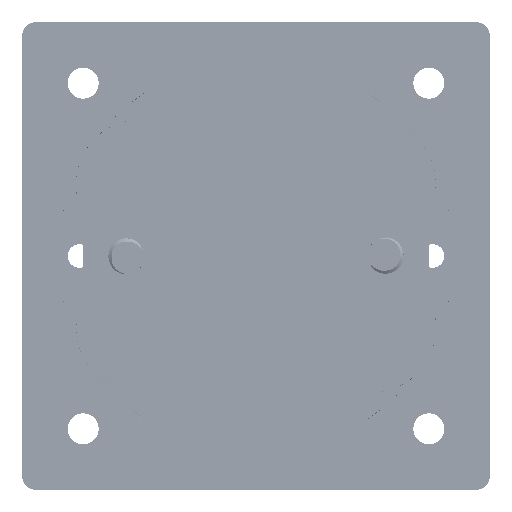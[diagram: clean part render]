
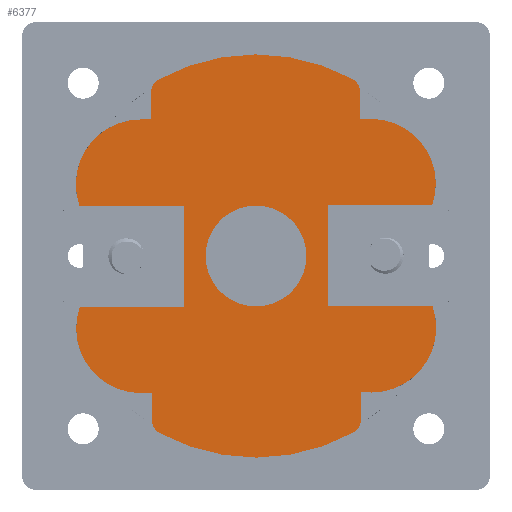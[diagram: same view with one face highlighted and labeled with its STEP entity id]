
A CAD part, front view. The second image highlights one B-rep face of the part: STEP entity #6377.
In plain terms, the highlighted planar face has unit normal (0, -1, 0).
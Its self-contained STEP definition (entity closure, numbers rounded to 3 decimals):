
#976=LINE('',#73582,#3403);
#981=LINE('',#73593,#3408);
#983=LINE('',#73597,#3410);
#987=LINE('',#73609,#3414);
#992=LINE('',#73620,#3419);
#994=LINE('',#73624,#3421);
#999=LINE('',#73659,#3426);
#1039=LINE('',#73743,#3466);
#1081=LINE('',#73843,#3508);
#1083=LINE('',#73857,#3510);
#1089=LINE('',#73876,#3516);
#1128=LINE('',#73954,#3555);
#1170=LINE('',#74054,#3597);
#1173=LINE('',#74060,#3600);
#3403=VECTOR('',#37019,1.);
#3408=VECTOR('',#37026,1.);
#3410=VECTOR('',#37030,1.);
#3414=VECTOR('',#37042,1.);
#3419=VECTOR('',#37049,1.);
#3421=VECTOR('',#37053,1.);
#3426=VECTOR('',#37066,1.);
#3466=VECTOR('',#37114,1.);
#3508=VECTOR('',#37180,1.);
#3510=VECTOR('',#37184,1.);
#3516=VECTOR('',#37204,1.);
#3555=VECTOR('',#37245,1.);
#3597=VECTOR('',#37311,1.);
#3600=VECTOR('',#37316,1.);
#5709=FACE_BOUND('',#10916,.T.);
#5710=FACE_BOUND('',#10917,.T.);
#6377=ADVANCED_FACE('',(#5709,#5710),#8111,.F.);
#8111=PLANE('',#33824);
#10916=EDGE_LOOP('',(#15161,#15162,#15163,#15164,#15165,#15166,#15167,#15168,
#15169,#15170,#15171,#15172,#15173,#15174,#15175,#15176,#15177,#15178,#15179,
#15180,#15181,#15182,#15183,#15184,#15185));
#10917=EDGE_LOOP('',(#15186));
#12907=CIRCLE('',#33765,7.);
#12913=CIRCLE('',#33781,8.96);
#12916=CIRCLE('',#33786,2.);
#12918=CIRCLE('',#33789,28.);
#12921=CIRCLE('',#33793,2.);
#12922=CIRCLE('',#33797,9.);
#12924=CIRCLE('',#33800,9.);
#12928=CIRCLE('',#33807,2.);
#12930=CIRCLE('',#33810,28.);
#12933=CIRCLE('',#33814,2.);
#12934=CIRCLE('',#33818,9.);
#12936=CIRCLE('',#33821,9.);
#15161=ORIENTED_EDGE('',*,*,#27935,.F.);
#15162=ORIENTED_EDGE('',*,*,#28056,.T.);
#15163=ORIENTED_EDGE('',*,*,#28055,.T.);
#15164=ORIENTED_EDGE('',*,*,#28051,.T.);
#15165=ORIENTED_EDGE('',*,*,#28012,.T.);
#15166=ORIENTED_EDGE('',*,*,#28008,.T.);
#15167=ORIENTED_EDGE('',*,*,#28005,.T.);
#15168=ORIENTED_EDGE('',*,*,#28001,.T.);
#15169=ORIENTED_EDGE('',*,*,#27962,.T.);
#15170=ORIENTED_EDGE('',*,*,#27959,.T.);
#15171=ORIENTED_EDGE('',*,*,#28161,.T.);
#15172=ORIENTED_EDGE('',*,*,#27946,.F.);
#15173=ORIENTED_EDGE('',*,*,#27941,.F.);
#15174=ORIENTED_EDGE('',*,*,#27948,.F.);
#15175=ORIENTED_EDGE('',*,*,#28158,.T.);
#15176=ORIENTED_EDGE('',*,*,#28157,.T.);
#15177=ORIENTED_EDGE('',*,*,#28154,.T.);
#15178=ORIENTED_EDGE('',*,*,#28115,.T.);
#15179=ORIENTED_EDGE('',*,*,#28111,.T.);
#15180=ORIENTED_EDGE('',*,*,#28108,.T.);
#15181=ORIENTED_EDGE('',*,*,#28104,.T.);
#15182=ORIENTED_EDGE('',*,*,#28065,.T.);
#15183=ORIENTED_EDGE('',*,*,#28059,.T.);
#15184=ORIENTED_EDGE('',*,*,#27933,.F.);
#15185=ORIENTED_EDGE('',*,*,#27928,.F.);
#15186=ORIENTED_EDGE('',*,*,#27927,.F.);
#24463=VERTEX_POINT('',#73580);
#24464=VERTEX_POINT('',#73583);
#24465=VERTEX_POINT('',#73584);
#24469=VERTEX_POINT('',#73594);
#24470=VERTEX_POINT('',#73598);
#24474=VERTEX_POINT('',#73610);
#24475=VERTEX_POINT('',#73611);
#24479=VERTEX_POINT('',#73621);
#24480=VERTEX_POINT('',#73625);
#24484=VERTEX_POINT('',#73640);
#24489=VERTEX_POINT('',#73658);
#24490=VERTEX_POINT('',#73662);
#24492=VERTEX_POINT('',#73668);
#24530=VERTEX_POINT('',#73746);
#24533=VERTEX_POINT('',#73754);
#24535=VERTEX_POINT('',#73760);
#24538=VERTEX_POINT('',#73768);
#24576=VERTEX_POINT('',#73849);
#24580=VERTEX_POINT('',#73865);
#24583=VERTEX_POINT('',#73873);
#24585=VERTEX_POINT('',#73879);
#24623=VERTEX_POINT('',#73957);
#24626=VERTEX_POINT('',#73965);
#24628=VERTEX_POINT('',#73971);
#24631=VERTEX_POINT('',#73979);
#24669=VERTEX_POINT('',#74057);
#27927=EDGE_CURVE('',#24463,#24463,#12907,.T.);
#27928=EDGE_CURVE('',#24464,#24465,#976,.T.);
#27933=EDGE_CURVE('',#24465,#24469,#981,.T.);
#27935=EDGE_CURVE('',#24470,#24464,#983,.T.);
#27941=EDGE_CURVE('',#24474,#24475,#987,.T.);
#27946=EDGE_CURVE('',#24475,#24479,#992,.T.);
#27948=EDGE_CURVE('',#24480,#24474,#994,.T.);
#27959=EDGE_CURVE('',#24484,#24489,#999,.T.);
#27962=EDGE_CURVE('',#24490,#24484,#12913,.T.);
#28001=EDGE_CURVE('',#24492,#24490,#1039,.T.);
#28005=EDGE_CURVE('',#24530,#24492,#12916,.T.);
#28008=EDGE_CURVE('',#24533,#24530,#12918,.T.);
#28012=EDGE_CURVE('',#24535,#24533,#12921,.T.);
#28051=EDGE_CURVE('',#24538,#24535,#1081,.T.);
#28055=EDGE_CURVE('',#24576,#24538,#1083,.T.);
#28056=EDGE_CURVE('',#24470,#24576,#12922,.T.);
#28059=EDGE_CURVE('',#24580,#24469,#12924,.T.);
#28065=EDGE_CURVE('',#24583,#24580,#1089,.T.);
#28104=EDGE_CURVE('',#24585,#24583,#1128,.T.);
#28108=EDGE_CURVE('',#24623,#24585,#12928,.T.);
#28111=EDGE_CURVE('',#24626,#24623,#12930,.T.);
#28115=EDGE_CURVE('',#24628,#24626,#12933,.T.);
#28154=EDGE_CURVE('',#24631,#24628,#1170,.T.);
#28157=EDGE_CURVE('',#24669,#24631,#1173,.T.);
#28158=EDGE_CURVE('',#24480,#24669,#12934,.T.);
#28161=EDGE_CURVE('',#24489,#24479,#12936,.T.);
#33765=AXIS2_PLACEMENT_3D('',#73579,#37015,#37016);
#33781=AXIS2_PLACEMENT_3D('',#73665,#37072,#37073);
#33786=AXIS2_PLACEMENT_3D('',#73751,#37122,#37123);
#33789=AXIS2_PLACEMENT_3D('',#73757,#37129,#37130);
#33793=AXIS2_PLACEMENT_3D('',#73765,#37138,#37139);
#33797=AXIS2_PLACEMENT_3D('',#73859,#37187,#37188);
#33800=AXIS2_PLACEMENT_3D('',#73864,#37194,#37195);
#33807=AXIS2_PLACEMENT_3D('',#73962,#37253,#37254);
#33810=AXIS2_PLACEMENT_3D('',#73968,#37260,#37261);
#33814=AXIS2_PLACEMENT_3D('',#73976,#37269,#37270);
#33818=AXIS2_PLACEMENT_3D('',#74062,#37319,#37320);
#33821=AXIS2_PLACEMENT_3D('',#74067,#37326,#37327);
#33824=AXIS2_PLACEMENT_3D('',#74072,#37333,#37334);
#37015=DIRECTION('',(0.,-1.,0.));
#37016=DIRECTION('',(-1.,0.,-0.003));
#37019=DIRECTION('',(-0.003,0.,1.));
#37026=DIRECTION('',(-1.,0.,-0.003));
#37030=DIRECTION('',(1.,0.,0.003));
#37042=DIRECTION('',(0.003,0.,-1.));
#37049=DIRECTION('',(1.,0.,0.003));
#37053=DIRECTION('',(-1.,0.,-0.003));
#37066=DIRECTION('',(1.,0.,0.003));
#37072=DIRECTION('',(0.,-1.,0.));
#37073=DIRECTION('',(0.,0.,-1.));
#37114=DIRECTION('',(-0.003,0.,1.));
#37122=DIRECTION('',(0.,-1.,0.));
#37123=DIRECTION('',(1.,0.,0.003));
#37129=DIRECTION('',(0.,-1.,0.));
#37130=DIRECTION('',(1.,0.,0.003));
#37138=DIRECTION('',(0.,-1.,0.));
#37139=DIRECTION('',(1.,0.,0.003));
#37180=DIRECTION('',(0.003,0.,-1.));
#37184=DIRECTION('',(1.,0.,0.003));
#37187=DIRECTION('',(0.,-1.,0.));
#37188=DIRECTION('',(-0.89,0.,0.456));
#37194=DIRECTION('',(0.,-1.,0.));
#37195=DIRECTION('',(-1.,0.,-0.003));
#37204=DIRECTION('',(-1.,0.,-0.003));
#37245=DIRECTION('',(0.003,0.,-1.));
#37253=DIRECTION('',(0.,-1.,0.));
#37254=DIRECTION('',(1.,0.,0.003));
#37260=DIRECTION('',(0.,-1.,0.));
#37261=DIRECTION('',(1.,0.,0.003));
#37269=DIRECTION('',(0.,-1.,0.));
#37270=DIRECTION('',(1.,0.,0.003));
#37311=DIRECTION('',(-0.003,0.,1.));
#37316=DIRECTION('',(-1.,0.,-0.003));
#37319=DIRECTION('',(0.,-1.,0.));
#37320=DIRECTION('',(1.,0.,0.003));
#37326=DIRECTION('',(0.,-1.,0.));
#37327=DIRECTION('',(0.,0.,-1.));
#37333=DIRECTION('',(0.,1.,0.));
#37334=DIRECTION('',(0.,0.,1.));
#73579=CARTESIAN_POINT('',(0.,-148.6,0.));
#73580=CARTESIAN_POINT('',(-7.,-148.6,-0.018));
#73582=CARTESIAN_POINT('',(-9.982,-148.6,-7.026));
#73583=CARTESIAN_POINT('',(-9.982,-148.6,-7.026));
#73584=CARTESIAN_POINT('',(-10.018,-148.6,6.974));
#73593=CARTESIAN_POINT('',(-10.018,-148.6,6.974));
#73594=CARTESIAN_POINT('',(-24.503,-148.6,6.937));
#73597=CARTESIAN_POINT('',(-34.164,-148.6,-7.088));
#73598=CARTESIAN_POINT('',(-24.468,-148.6,-7.063));
#73609=CARTESIAN_POINT('',(9.982,-148.6,7.026));
#73610=CARTESIAN_POINT('',(9.982,-148.6,7.026));
#73611=CARTESIAN_POINT('',(10.018,-148.6,-6.974));
#73620=CARTESIAN_POINT('',(10.018,-148.6,-6.974));
#73621=CARTESIAN_POINT('',(24.503,-148.6,-6.937));
#73624=CARTESIAN_POINT('',(34.164,-148.6,7.088));
#73625=CARTESIAN_POINT('',(24.467,-148.6,7.063));
#73640=CARTESIAN_POINT('',(15.978,-148.6,-18.959));
#73658=CARTESIAN_POINT('',(16.119,-148.6,-18.958));
#73659=CARTESIAN_POINT('',(23.752,-148.6,-18.938));
#73662=CARTESIAN_POINT('',(14.548,-148.6,-18.837));
#73665=CARTESIAN_POINT('',(16.02,-148.6,-9.999));
#73668=CARTESIAN_POINT('',(14.558,-148.6,-22.761));
#73743=CARTESIAN_POINT('',(14.558,-148.6,-22.761));
#73746=CARTESIAN_POINT('',(13.525,-148.6,-24.517));
#73751=CARTESIAN_POINT('',(12.558,-148.6,-22.766));
#73754=CARTESIAN_POINT('',(-13.398,-148.6,-24.586));
#73757=CARTESIAN_POINT('',(0.,-148.6,0.));
#73760=CARTESIAN_POINT('',(-14.441,-148.6,-22.835));
#73765=CARTESIAN_POINT('',(-12.441,-148.6,-22.83));
#73768=CARTESIAN_POINT('',(-14.451,-148.6,-19.037));
#73843=CARTESIAN_POINT('',(-14.451,-148.6,-19.037));
#73849=CARTESIAN_POINT('',(-15.951,-148.6,-19.041));
#73857=CARTESIAN_POINT('',(23.753,-148.6,-18.934));
#73859=CARTESIAN_POINT('',(-15.974,-148.6,-10.041));
#73864=CARTESIAN_POINT('',(-16.026,-148.6,9.959));
#73865=CARTESIAN_POINT('',(-16.049,-148.6,18.959));
#73873=CARTESIAN_POINT('',(-14.549,-148.6,18.963));
#73876=CARTESIAN_POINT('',(-14.549,-148.6,18.963));
#73879=CARTESIAN_POINT('',(-14.558,-148.6,22.761));
#73954=CARTESIAN_POINT('',(-14.558,-148.6,22.761));
#73957=CARTESIAN_POINT('',(-13.525,-148.6,24.517));
#73962=CARTESIAN_POINT('',(-12.558,-148.6,22.766));
#73965=CARTESIAN_POINT('',(13.398,-148.6,24.586));
#73968=CARTESIAN_POINT('',(0.,-148.6,0.));
#73971=CARTESIAN_POINT('',(14.441,-148.6,22.835));
#73976=CARTESIAN_POINT('',(12.441,-148.6,22.83));
#73979=CARTESIAN_POINT('',(14.451,-148.6,19.037));
#74054=CARTESIAN_POINT('',(14.451,-148.6,19.037));
#74057=CARTESIAN_POINT('',(15.951,-148.6,19.041));
#74060=CARTESIAN_POINT('',(15.951,-148.6,19.041));
#74062=CARTESIAN_POINT('',(15.974,-148.6,10.041));
#74067=CARTESIAN_POINT('',(16.026,-148.6,-9.959));
#74072=CARTESIAN_POINT('',(23.741,-148.6,-14.593));
